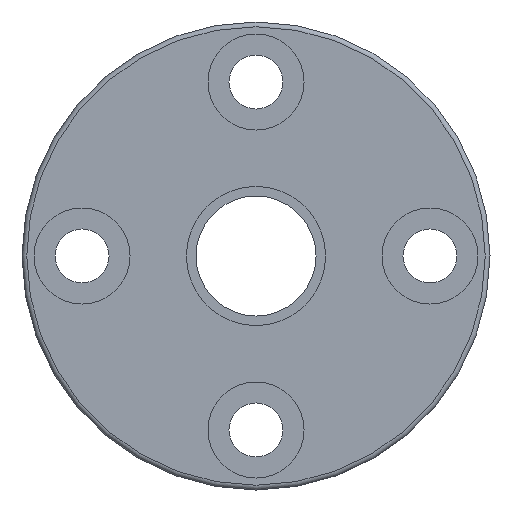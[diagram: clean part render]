
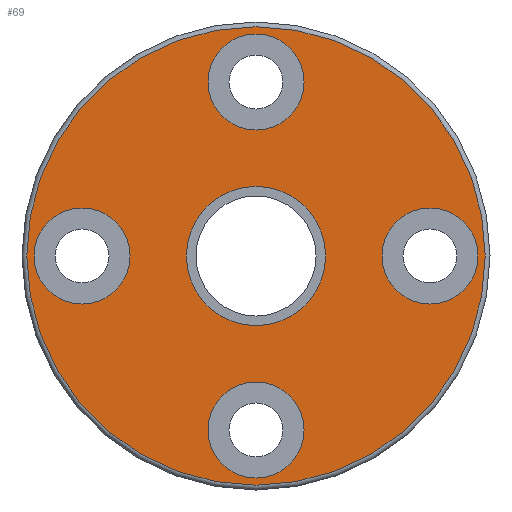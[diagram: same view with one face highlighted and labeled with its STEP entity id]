
A CAD part, left-side view. The second image highlights one B-rep face of the part: STEP entity #69.
In plain terms, the highlighted planar face has unit normal (-1, 0, 0).
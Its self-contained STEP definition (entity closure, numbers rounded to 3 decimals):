
#69 = ADVANCED_FACE( '', ( #162, #163, #164, #165, #166, #167 ), #168, .T. );
#162 = FACE_BOUND( '', #285, .T. );
#163 = FACE_BOUND( '', #286, .T. );
#164 = FACE_BOUND( '', #287, .T. );
#165 = FACE_BOUND( '', #288, .T. );
#166 = FACE_BOUND( '', #289, .T. );
#167 = FACE_OUTER_BOUND( '', #290, .T. );
#168 = PLANE( '', #291 );
#285 = EDGE_LOOP( '', ( #420 ) );
#286 = EDGE_LOOP( '', ( #421 ) );
#287 = EDGE_LOOP( '', ( #422 ) );
#288 = EDGE_LOOP( '', ( #423 ) );
#289 = EDGE_LOOP( '', ( #424 ) );
#290 = EDGE_LOOP( '', ( #425 ) );
#291 = AXIS2_PLACEMENT_3D( '', #426, #427, #428 );
#420 = ORIENTED_EDGE( '', *, *, #559, .T. );
#421 = ORIENTED_EDGE( '', *, *, #560, .T. );
#422 = ORIENTED_EDGE( '', *, *, #561, .T. );
#423 = ORIENTED_EDGE( '', *, *, #562, .T. );
#424 = ORIENTED_EDGE( '', *, *, #563, .F. );
#425 = ORIENTED_EDGE( '', *, *, #556, .T. );
#426 = CARTESIAN_POINT( '', ( 0., 12.55, 0. ) );
#427 = DIRECTION( '', ( -1., 0., 0. ) );
#428 = DIRECTION( '', ( 0., 1., 0. ) );
#556 = EDGE_CURVE( '', #630, #630, #631, .T. );
#559 = EDGE_CURVE( '', #635, #635, #636, .T. );
#560 = EDGE_CURVE( '', #637, #637, #638, .T. );
#561 = EDGE_CURVE( '', #639, #639, #640, .T. );
#562 = EDGE_CURVE( '', #641, #641, #642, .T. );
#563 = EDGE_CURVE( '', #643, #643, #644, .T. );
#630 = VERTEX_POINT( '', #719 );
#631 = CIRCLE( '', #720, 19.1 );
#635 = VERTEX_POINT( '', #724 );
#636 = CIRCLE( '', #725, 4. );
#637 = VERTEX_POINT( '', #726 );
#638 = CIRCLE( '', #727, 4. );
#639 = VERTEX_POINT( '', #728 );
#640 = CIRCLE( '', #729, 4. );
#641 = VERTEX_POINT( '', #730 );
#642 = CIRCLE( '', #731, 4. );
#643 = VERTEX_POINT( '', #732 );
#644 = CIRCLE( '', #733, 5.8 );
#719 = CARTESIAN_POINT( '', ( 0., 19.1, 0. ) );
#720 = AXIS2_PLACEMENT_3D( '', #815, #816, #817 );
#724 = CARTESIAN_POINT( '', ( 0., 0., -18.5 ) );
#725 = AXIS2_PLACEMENT_3D( '', #821, #822, #823 );
#726 = CARTESIAN_POINT( '', ( 0., 0., 18.5 ) );
#727 = AXIS2_PLACEMENT_3D( '', #824, #825, #826 );
#728 = CARTESIAN_POINT( '', ( 0., 18.5, 0. ) );
#729 = AXIS2_PLACEMENT_3D( '', #827, #828, #829 );
#730 = CARTESIAN_POINT( '', ( 0., -18.5, 0. ) );
#731 = AXIS2_PLACEMENT_3D( '', #830, #831, #832 );
#732 = CARTESIAN_POINT( '', ( 0., 5.8, 0. ) );
#733 = AXIS2_PLACEMENT_3D( '', #833, #834, #835 );
#815 = CARTESIAN_POINT( '', ( 0., 0., 0. ) );
#816 = DIRECTION( '', ( -1., 0., 0. ) );
#817 = DIRECTION( '', ( 0., 0., 1. ) );
#821 = CARTESIAN_POINT( '', ( 0., 0., -14.5 ) );
#822 = DIRECTION( '', ( 1., 0., 0. ) );
#823 = DIRECTION( '', ( 0., 0., -1. ) );
#824 = CARTESIAN_POINT( '', ( 0., 0., 14.5 ) );
#825 = DIRECTION( '', ( 1., 0., 0. ) );
#826 = DIRECTION( '', ( 0., 0., 1. ) );
#827 = CARTESIAN_POINT( '', ( 0., 14.5, 0. ) );
#828 = DIRECTION( '', ( 1., 0., 0. ) );
#829 = DIRECTION( '', ( 0., 1., 0. ) );
#830 = CARTESIAN_POINT( '', ( 0., -14.5, 0. ) );
#831 = DIRECTION( '', ( 1., 0., 0. ) );
#832 = DIRECTION( '', ( 0., -1., 0. ) );
#833 = CARTESIAN_POINT( '', ( 0., 0., 0. ) );
#834 = DIRECTION( '', ( -1., 0., 0. ) );
#835 = DIRECTION( '', ( 0., 1., 0. ) );
